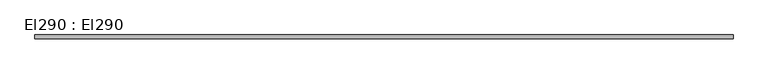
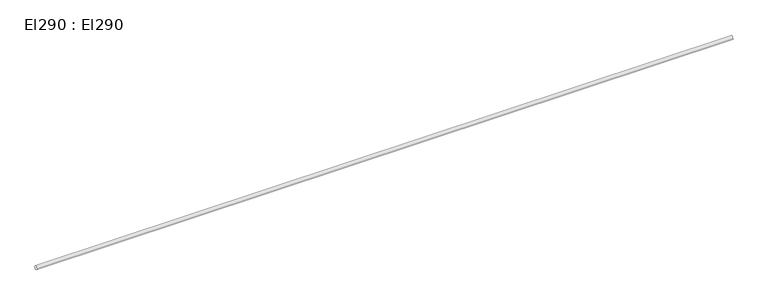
"""IFC4 building model written with IfcOpenShell, lengths in millimetres: cable carrier segment geometry, El290 : El290."""

from ifc_helpers import new_model, si_unit, point, frame, frame_2d, origin, place, context, project, spatial, circle_curve, trimmed, segment, composite_curve, outline, extrude, source, transform, mapped, element, save


def el290_el290_c76b7c3f(model_context):
    return source(origin(), model_context, "Body", "SweptSolid", [
        extrude(outline(composite_curve([segment(trimmed(circle_curve(frame_2d((14272.1, 2950.0)), 9.5), [point((14262.6, 2950.0))], [point((14281.6, 2950.0))], False, "CARTESIAN"), True, "CONTINUOUS"), segment(trimmed(circle_curve(frame_2d((14272.1, 2950.0)), 9.5), [point((14281.6, 2950.0))], [point((14262.6, 2950.0))], False, "CARTESIAN"), True, "CONTINUOUS")], self_intersect=False)), frame((10051.1, 0.0, 0.0), z_axis=(1.0, 0.0, 0.0), x_axis=(0.0, 1.0, 0.0)), (0.0, 0.0, 1.0), 3420.0),
    ])


if __name__ == "__main__":
    model = new_model("IFC4")
    model_context = context("Model", 3, world=origin())
    ifc_project = project(units=[si_unit("LENGTHUNIT", "METRE", prefix="MILLI")], contexts=[model_context])
    site = spatial("IfcSite", under=ifc_project)
    building = spatial("IfcBuilding", under=site)
    placement = place(None, origin())
    el290_el290_shape = el290_el290_c76b7c3f(model_context)
    element("IfcCableCarrierSegment", 1, ObjectType="El290 : El290", at=placement, inside=building, context=model_context, shape_type="MappedRepresentation", body=[
        mapped(el290_el290_shape, transform((0.0, 0.0, 0.0), x_axis=(1.0, 0.0, 0.0), y_axis=(0.0, 1.0, 0.0), z_axis=(0.0, 0.0, 1.0))),
    ])
    save(model, "model.ifc")
